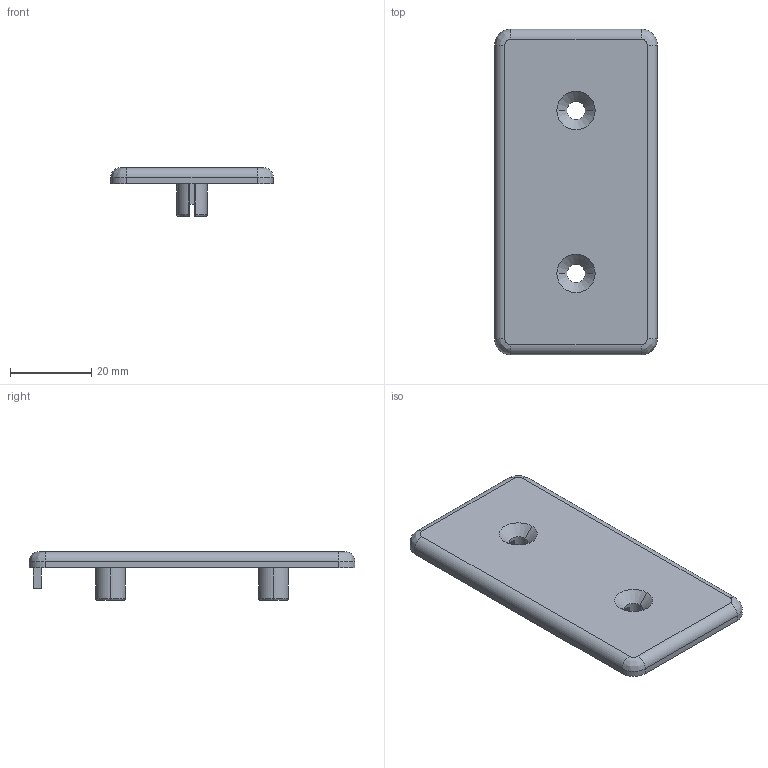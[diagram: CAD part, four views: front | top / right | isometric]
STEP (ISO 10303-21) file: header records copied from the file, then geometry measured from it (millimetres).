
FILE_DESCRIPTION (( 'STEP AP203' ), '1' );
FILE_NAME ('421051_Abdeckkappe 8 40x80, verschraubbar (2xM4).step', '2022-06-24T07:27:38', ( '' ), ( '' ), 'SwSTEP 2.0', 'SolidWorks 2021', '' );
FILE_SCHEMA (( 'CONFIG_CONTROL_DESIGN' ));
Length unit declared in the file: millimetre
Products named in the file (1): 421051_Abdeckkappe 8 40x80, verschraubbar (2xM4)
Bounding box: 40 x 80 x 12 mm (x, y, z)
Volume: 9992.6 mm3; surface area: 8024.5 mm2
Topology: 1 solids, 1 shells, 127 faces, 310 edges, 186 vertices
Faces by surface type: cylinder 48, plane 33, bspline 28, torus 14, cone 4
Entity records: 4397 total; most frequent: CARTESIAN_POINT 1512, ORIENTED_EDGE 620, DIRECTION 558, EDGE_CURVE 310, AXIS2_PLACEMENT_3D 216, VERTEX_POINT 186, EDGE_LOOP 132, ADVANCED_FACE 127
